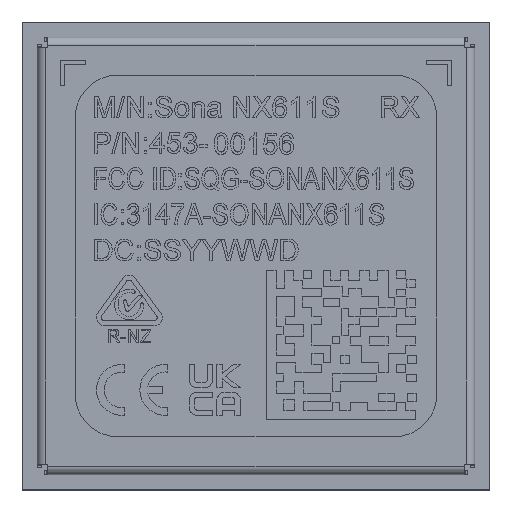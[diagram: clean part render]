
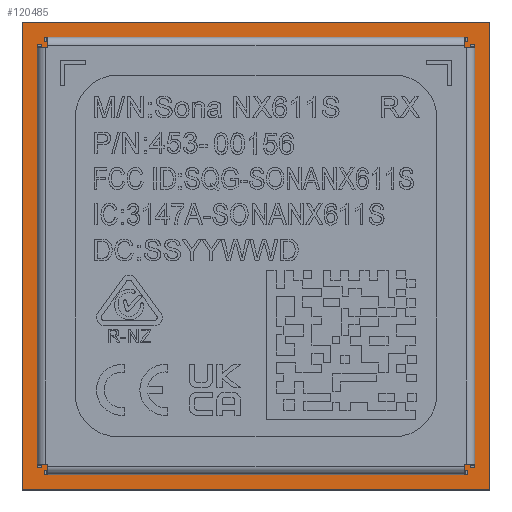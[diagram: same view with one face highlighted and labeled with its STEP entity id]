
A CAD part, top view. The second image highlights one B-rep face of the part: STEP entity #120485.
In plain terms, the highlighted planar face has unit normal (0, 0, 1).
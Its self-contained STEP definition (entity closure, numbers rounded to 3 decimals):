
#643 = LINE ( 'NONE', #12011, #16772 ) ;
#1941 = FACE_OUTER_BOUND ( 'NONE', #40170, .T. ) ;
#8536 = VECTOR ( 'NONE', #174680, 1000. ) ;
#12011 = CARTESIAN_POINT ( 'NONE',  ( 5.5, 5.5, 0. ) ) ;
#12301 = LINE ( 'NONE', #86191, #83084 ) ;
#16772 = VECTOR ( 'NONE', #56550, 1000. ) ;
#23123 = ORIENTED_EDGE ( 'NONE', *, *, #149807, .F. ) ;
#24041 = VERTEX_POINT ( 'NONE', #56017 ) ;
#24729 = VERTEX_POINT ( 'NONE', #84715 ) ;
#34013 = DIRECTION ( 'NONE',  ( 0., -1., 0. ) ) ;
#40170 = EDGE_LOOP ( 'NONE', ( #23123, #172402, #45958, #61361 ) ) ;
#45459 = DIRECTION ( 'NONE',  ( 0., 0., -1. ) ) ;
#45958 = ORIENTED_EDGE ( 'NONE', *, *, #71191, .F. ) ;
#48379 = EDGE_CURVE ( 'NONE', #65839, #70992, #643, .T. ) ;
#56017 = CARTESIAN_POINT ( 'NONE',  ( -5.5, 5.5, 0. ) ) ;
#56550 = DIRECTION ( 'NONE',  ( 0., -1., 0. ) ) ;
#58453 = LINE ( 'NONE', #118142, #144799 ) ;
#59287 = AXIS2_PLACEMENT_3D ( 'NONE', #103276, #45459, #34013 ) ;
#61361 = ORIENTED_EDGE ( 'NONE', *, *, #67305, .F. ) ;
#65839 = VERTEX_POINT ( 'NONE', #100512 ) ;
#67305 = EDGE_CURVE ( 'NONE', #24729, #24041, #58453, .T. ) ;
#70992 = VERTEX_POINT ( 'NONE', #164052 ) ;
#71191 = EDGE_CURVE ( 'NONE', #24041, #65839, #12301, .T. ) ;
#83084 = VECTOR ( 'NONE', #141240, 1000. ) ;
#84715 = CARTESIAN_POINT ( 'NONE',  ( -5.5, -5.5, 0. ) ) ;
#86191 = CARTESIAN_POINT ( 'NONE',  ( -5.5, 5.5, 0. ) ) ;
#100512 = CARTESIAN_POINT ( 'NONE',  ( 5.5, 5.5, 0. ) ) ;
#102575 = LINE ( 'NONE', #128310, #8536 ) ;
#103276 = CARTESIAN_POINT ( 'NONE',  ( 0., 0., 0. ) ) ;
#118142 = CARTESIAN_POINT ( 'NONE',  ( -5.5, -5.5, 0. ) ) ;
#118473 = PLANE ( 'NONE',  #59287 ) ;
#120485 = ADVANCED_FACE ( 'NONE', ( #1941 ), #118473, .F. ) ;
#128310 = CARTESIAN_POINT ( 'NONE',  ( 5.5, -5.5, 0. ) ) ;
#131457 = DIRECTION ( 'NONE',  ( 0., 1., 0. ) ) ;
#141240 = DIRECTION ( 'NONE',  ( 1., 0., 0. ) ) ;
#144799 = VECTOR ( 'NONE', #131457, 1000. ) ;
#149807 = EDGE_CURVE ( 'NONE', #70992, #24729, #102575, .T. ) ;
#164052 = CARTESIAN_POINT ( 'NONE',  ( 5.5, -5.5, 0. ) ) ;
#172402 = ORIENTED_EDGE ( 'NONE', *, *, #48379, .F. ) ;
#174680 = DIRECTION ( 'NONE',  ( -1., 0., 0. ) ) ;
